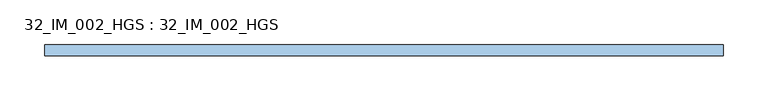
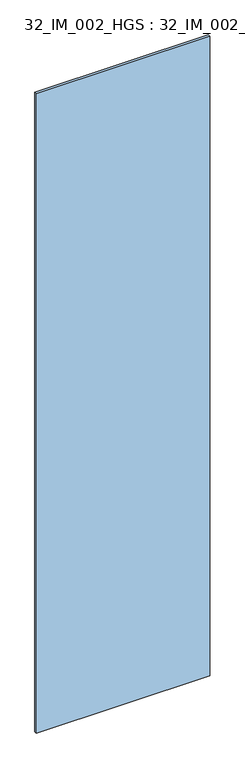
"""IFC4 building model written with IfcOpenShell, lengths in millimetres: window geometry, 32_IM_002_HGS : 32_IM_002_HGS."""

import ifcopenshell
import ifcopenshell.guid

model = None  # the IFC model being written
_history = None  # IfcOwnerHistory: only IFC2X3 demands one
_inside = {}  # id of a spatial element -> (the spatial element, [elements in it])
_under = {}  # id of a project, library or spatial element -> (it, [spatial elements below it])
_declared = {}  # id of a project -> (the project, [libraries it declares])
_typed = {}  # id of a type object -> (the type object, [elements of that type])
_made_of = {}  # id of a material, layer set ... -> (it, [elements and type objects made of it])


def new_model(schema):
    """Start an empty IFC model of exactly this schema.

    Asked for "IFC4X3", IfcOpenShell would pick the latest addendum, in which some entities
    have other attributes; the version numbers below select the first issue.
    IFC2X3 requires an IfcOwnerHistory on every rooted entity: one is made here for all.
    """
    global model, _history
    if schema == "IFC4X3":
        model = ifcopenshell.file(schema_version=(4, 3, 0, 0))
    else:
        model = ifcopenshell.file(schema=schema)
    _inside.clear()
    _under.clear()
    _declared.clear()
    _typed.clear()
    _made_of.clear()
    _history = None
    if model.schema == "IFC2X3":
        org = make("IfcOrganization", Name="unknown")
        user = make(
            "IfcPersonAndOrganization",
            ThePerson=make("IfcPerson", FamilyName="unknown"),
            TheOrganization=org,
        )
        app = make(
            "IfcApplication",
            ApplicationDeveloper=org,
            Version="unknown",
            ApplicationFullName="unknown",
            ApplicationIdentifier="unknown",
        )
        _history = make(
            "IfcOwnerHistory",
            OwningUser=user,
            OwningApplication=app,
            ChangeAction="ADDED",
            CreationDate=0,
        )
    return model


def make(cls, **values):
    """One entity of the class cls with the attributes given. An attribute that is None is left unset."""
    return model.create_entity(
        cls, **{name: value for name, value in values.items() if value is not None}
    )


def rooted(cls, **values):
    """An entity with a GlobalId (a new one), such as an element, a storey or a relation."""
    return make(cls, GlobalId=ifcopenshell.guid.new(), OwnerHistory=_history, **values)


def si_unit(unit_type, name, prefix=None):
    """IfcSIUnit, for example si_unit("LENGTHUNIT", "METRE", prefix="MILLI")."""
    return make("IfcSIUnit", UnitType=unit_type, Prefix=prefix, Name=name)


def assignment(units):
    """IfcUnitAssignment: the units of a project."""
    return None if units is None else make("IfcUnitAssignment", Units=units)


def point(xyz):
    """IfcCartesianPoint."""
    return None if xyz is None else make("IfcCartesianPoint", Coordinates=xyz)


def direction(xyz):
    """IfcDirection."""
    return None if xyz is None else make("IfcDirection", DirectionRatios=xyz)


def frame(location, z_axis=None, x_axis=None):
    """IfcAxis2Placement3D, a coordinate frame: its origin and axes. An axis left out is left unset."""
    return make(
        "IfcAxis2Placement3D",
        Location=point(location),
        Axis=direction(z_axis),
        RefDirection=direction(x_axis),
    )


def origin():
    """The frame at (0, 0, 0) with its axes left unset."""
    return frame((0.0, 0.0, 0.0))


def origin_with_axes():
    """The frame at (0, 0, 0) with the z axis (0, 0, 1) and the x axis (1, 0, 0) written out."""
    return frame((0.0, 0.0, 0.0), z_axis=(0.0, 0.0, 1.0), x_axis=(1.0, 0.0, 0.0))


def place(relative_to, where):
    """IfcLocalPlacement: puts the frame where relative to a parent placement (None: the world)."""
    return make(
        "IfcLocalPlacement", PlacementRelTo=relative_to, RelativePlacement=where
    )


def context(
    kind, dimensions, precision=None, world=None, true_north=None, identifier=None
):
    """IfcGeometricRepresentationContext, for example the 3D "Model" context."""
    return make(
        "IfcGeometricRepresentationContext",
        ContextIdentifier=identifier,
        ContextType=kind,
        CoordinateSpaceDimension=dimensions,
        Precision=precision,
        WorldCoordinateSystem=world,
        TrueNorth=true_north,
    )


def project(units=None, contexts=None):
    """IfcProject with its units and contexts."""
    return rooted(
        "IfcProject",
        Name="project",
        RepresentationContexts=contexts,
        UnitsInContext=assignment(units),
    )


def spatial(cls, under=None, at=None, **own):
    """A site, building, storey or space (cls), placed at a placement, below another one or the project."""
    s = rooted(cls, ObjectPlacement=at, **own)
    if under is not None:
        _under.setdefault(under.id(), (under, []))[1].append(s)
    return s


def polyline(points):
    """IfcPolyline through the points."""
    return make("IfcPolyline", Points=[point(p) for p in points])


def outline(outer, holes=None, kind="AREA"):
    """IfcArbitraryClosedProfileDef: a profile drawn as a closed curve; with holes, ...WithVoids."""
    if holes is None:
        return make("IfcArbitraryClosedProfileDef", ProfileType=kind, OuterCurve=outer)
    return make(
        "IfcArbitraryProfileDefWithVoids",
        ProfileType=kind,
        OuterCurve=outer,
        InnerCurves=holes,
    )


def extrude(swept, where, along, depth):
    """IfcExtrudedAreaSolid: the profile swept, set in the frame where, extruded along a direction by depth."""
    return make(
        "IfcExtrudedAreaSolid",
        SweptArea=swept,
        Position=where,
        ExtrudedDirection=direction(along),
        Depth=depth,
    )


def shape(context_of_items, identifier, shape_type, items):
    """IfcShapeRepresentation: the items that make up one representation, for example the "Body"."""
    return make(
        "IfcShapeRepresentation",
        ContextOfItems=context_of_items,
        RepresentationIdentifier=identifier,
        RepresentationType=shape_type,
        Items=items,
    )


def source(mapping_origin, context_of_items, identifier, shape_type, items):
    """IfcRepresentationMap: a shape defined once, which mapped items show again and again."""
    return make(
        "IfcRepresentationMap",
        MappingOrigin=mapping_origin,
        MappedRepresentation=shape(context_of_items, identifier, shape_type, items),
    )


def transform(
    local_origin,
    x_axis=None,
    y_axis=None,
    z_axis=None,
    scale=None,
    scale2=None,
    scale3=None,
    uniform=True,
):
    """IfcCartesianTransformationOperator3D, or its non-uniform kind. x_axis, y_axis, z_axis: its Axis1, 2, 3."""
    if uniform:
        return make(
            "IfcCartesianTransformationOperator3D",
            Axis1=direction(x_axis),
            Axis2=direction(y_axis),
            LocalOrigin=point(local_origin),
            Scale=scale,
            Axis3=direction(z_axis),
        )
    return make(
        "IfcCartesianTransformationOperator3DnonUniform",
        Axis1=direction(x_axis),
        Axis2=direction(y_axis),
        LocalOrigin=point(local_origin),
        Scale=scale,
        Axis3=direction(z_axis),
        Scale2=scale2,
        Scale3=scale3,
    )


def mapped(mapping_source, mapping_target):
    """IfcMappedItem: shows the shape of a source again, moved by a transform."""
    return make(
        "IfcMappedItem", MappingSource=mapping_source, MappingTarget=mapping_target
    )


def made_of(thing, what):
    """Note that an element or type object is made of a material, layer set ...; save() writes the relation."""
    if what is not None:
        _made_of.setdefault(what.id(), (what, []))[1].append(thing)
    return thing


def element(
    cls,
    number,
    at=None,
    inside=None,
    cuts=None,
    type_object=None,
    material=None,
    context=None,
    identifier="Body",
    shape_type=None,
    held_by="IfcProductDefinitionShape",
    body=None,
    shapes=None,
    **own,
):
    """One element of the class cls, such as IfcWall. Its Tag is "e" and its number.

    at: its placement. inside: the storey or other place that contains it. cuts: it is an
    opening in that element (IfcRelVoidsElement). A single representation is given by context,
    identifier, shape_type and body (its items); several are given by shapes. held_by: the class
    of the entity that holds the representations. save() writes the other relations.
    """
    e = rooted(cls, Tag="e%d" % number, ObjectPlacement=at, **own)
    if body is not None:
        shapes = [shape(context, identifier, shape_type, body)]
    if shapes is not None:
        e.Representation = make(held_by, Representations=shapes)
    if inside is not None:
        _inside.setdefault(inside.id(), (inside, []))[1].append(e)
    if cuts is not None:
        rooted(
            "IfcRelVoidsElement", RelatingBuildingElement=cuts, RelatedOpeningElement=e
        )
    if type_object is not None:
        _typed.setdefault(type_object.id(), (type_object, []))[1].append(e)
    return made_of(e, material)


def aggregate(whole, parts):
    """IfcRelAggregates: a whole, such as a stair, and the parts it consists of."""
    return rooted("IfcRelAggregates", RelatingObject=whole, RelatedObjects=parts)


def save(model, path):
    """Write the relations noted so far, then the file.

    IfcRelAggregates (storeys below a building ...), IfcRelContainedInSpatialStructure (elements
    in a storey), IfcRelDefinesByType, IfcRelAssociatesMaterial and IfcRelDeclares: one each for
    every whole, place, type object, material and project.
    """
    for whole, parts in _under.values():
        aggregate(whole, parts)
    for where, things in _inside.values():
        rooted(
            "IfcRelContainedInSpatialStructure",
            RelatedElements=things,
            RelatingStructure=where,
        )
    for kind, things in _typed.values():
        rooted("IfcRelDefinesByType", RelatedObjects=things, RelatingType=kind)
    for what, things in _made_of.values():
        rooted("IfcRelAssociatesMaterial", RelatedObjects=things, RelatingMaterial=what)
    for by, libraries in _declared.values():
        rooted("IfcRelDeclares", RelatingContext=by, RelatedDefinitions=libraries)
    model.write(path)


def window_32_im_002_hgs_32_im_002_hgs_2188cdbe(model_context):
    return source(origin(), model_context, "Body", "SweptSolid", [
        extrude(outline(polyline([(377.9999998, 6.0), (377.9999998, -6.0), (-377.9999998, -6.0), (-377.9999998, 6.0), (377.9999998, 6.0)])), origin_with_axes(), (0.0, 0.0, 1.0), 2945.0),
    ])


if __name__ == "__main__":
    model = new_model("IFC4")
    model_context = context("Model", 3, world=origin())
    ifc_project = project(units=[si_unit("LENGTHUNIT", "METRE", prefix="MILLI")], contexts=[model_context])
    site = spatial("IfcSite", under=ifc_project)
    building = spatial("IfcBuilding", under=site)
    placement = place(None, origin())
    window_32_im_002_hgs_32_im_002_hgs_shape = window_32_im_002_hgs_32_im_002_hgs_2188cdbe(model_context)
    element("IfcWindow", 1, ObjectType="32_IM_002_HGS : 32_IM_002_HGS", at=placement, inside=building, context=model_context, shape_type="MappedRepresentation", body=[
        mapped(window_32_im_002_hgs_32_im_002_hgs_shape, transform((0.0, 0.0, 0.0), x_axis=(1.0, 0.0, 0.0), y_axis=(0.0, 1.0, 0.0), z_axis=(0.0, 0.0, 1.0))),
    ])
    save(model, "model.ifc")
